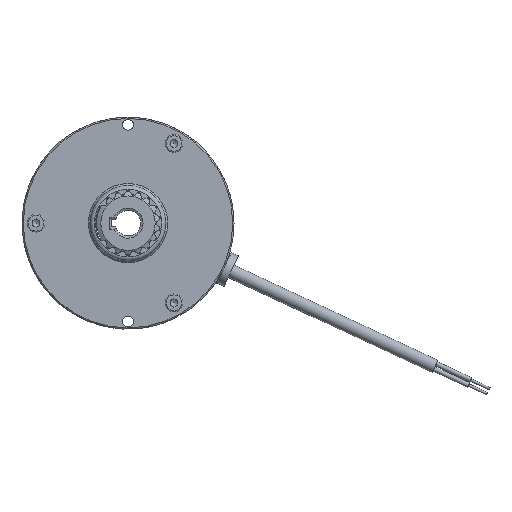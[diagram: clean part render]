
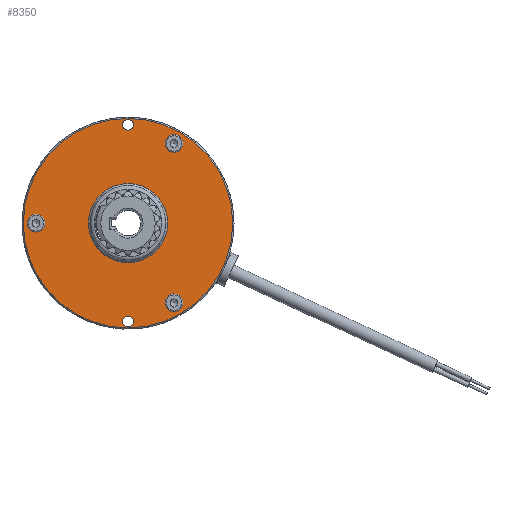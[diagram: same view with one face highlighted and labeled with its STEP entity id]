
A CAD part, left-side view. The second image highlights one B-rep face of the part: STEP entity #8350.
In plain terms, the highlighted planar face has unit normal (-1, 0, 0).
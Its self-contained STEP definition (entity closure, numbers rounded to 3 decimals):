
#149=FACE_BOUND('',#1711,.T.);
#150=FACE_BOUND('',#1712,.T.);
#151=FACE_BOUND('',#1713,.T.);
#152=FACE_BOUND('',#1714,.T.);
#153=FACE_BOUND('',#1715,.T.);
#154=FACE_BOUND('',#1716,.T.);
#226=PLANE('',#9124);
#703=CIRCLE('',#9115,3.5);
#704=CIRCLE('',#9116,3.5);
#705=CIRCLE('',#9125,41.);
#706=CIRCLE('',#9126,3.5);
#707=CIRCLE('',#9127,3.5);
#708=CIRCLE('',#9128,2.1);
#709=CIRCLE('',#9129,2.1);
#710=CIRCLE('',#9130,15.5);
#711=CIRCLE('',#9131,3.5);
#712=CIRCLE('',#9132,3.5);
#1300=FACE_OUTER_BOUND('',#1710,.T.);
#1710=EDGE_LOOP('',(#6850));
#1711=EDGE_LOOP('',(#6851,#6852));
#1712=EDGE_LOOP('',(#6853));
#1713=EDGE_LOOP('',(#6854));
#1714=EDGE_LOOP('',(#6855));
#1715=EDGE_LOOP('',(#6856,#6857));
#1716=EDGE_LOOP('',(#6858,#6859));
#3568=VERTEX_POINT('',#17226);
#3569=VERTEX_POINT('',#17227);
#3578=VERTEX_POINT('',#17275);
#3579=VERTEX_POINT('',#17277);
#3580=VERTEX_POINT('',#17278);
#3581=VERTEX_POINT('',#17281);
#3582=VERTEX_POINT('',#17283);
#3583=VERTEX_POINT('',#17285);
#3584=VERTEX_POINT('',#17287);
#3585=VERTEX_POINT('',#17288);
#4705=EDGE_CURVE('',#3568,#3569,#703,.T.);
#4706=EDGE_CURVE('',#3569,#3568,#704,.T.);
#4722=EDGE_CURVE('',#3578,#3578,#705,.T.);
#4723=EDGE_CURVE('',#3579,#3580,#706,.T.);
#4724=EDGE_CURVE('',#3580,#3579,#707,.T.);
#4725=EDGE_CURVE('',#3581,#3581,#708,.T.);
#4726=EDGE_CURVE('',#3582,#3582,#709,.T.);
#4727=EDGE_CURVE('',#3583,#3583,#710,.T.);
#4728=EDGE_CURVE('',#3584,#3585,#711,.T.);
#4729=EDGE_CURVE('',#3585,#3584,#712,.T.);
#6850=ORIENTED_EDGE('',*,*,#4722,.F.);
#6851=ORIENTED_EDGE('',*,*,#4723,.T.);
#6852=ORIENTED_EDGE('',*,*,#4724,.T.);
#6853=ORIENTED_EDGE('',*,*,#4725,.T.);
#6854=ORIENTED_EDGE('',*,*,#4726,.T.);
#6855=ORIENTED_EDGE('',*,*,#4727,.T.);
#6856=ORIENTED_EDGE('',*,*,#4728,.T.);
#6857=ORIENTED_EDGE('',*,*,#4729,.T.);
#6858=ORIENTED_EDGE('',*,*,#4705,.T.);
#6859=ORIENTED_EDGE('',*,*,#4706,.T.);
#8350=ADVANCED_FACE('',(#1300,#149,#150,#151,#152,#153,#154),#226,.T.);
#9115=AXIS2_PLACEMENT_3D('',#17228,#10917,#10918);
#9116=AXIS2_PLACEMENT_3D('',#17229,#10919,#10920);
#9124=AXIS2_PLACEMENT_3D('',#17274,#10943,#10944);
#9125=AXIS2_PLACEMENT_3D('',#17276,#10945,#10946);
#9126=AXIS2_PLACEMENT_3D('',#17279,#10947,#10948);
#9127=AXIS2_PLACEMENT_3D('',#17280,#10949,#10950);
#9128=AXIS2_PLACEMENT_3D('',#17282,#10951,#10952);
#9129=AXIS2_PLACEMENT_3D('',#17284,#10953,#10954);
#9130=AXIS2_PLACEMENT_3D('',#17286,#10955,#10956);
#9131=AXIS2_PLACEMENT_3D('',#17289,#10957,#10958);
#9132=AXIS2_PLACEMENT_3D('',#17290,#10959,#10960);
#10917=DIRECTION('center_axis',(1.,0.,0.));
#10918=DIRECTION('ref_axis',(0.,1.,0.));
#10919=DIRECTION('center_axis',(1.,0.,0.));
#10920=DIRECTION('ref_axis',(0.,1.,0.));
#10943=DIRECTION('center_axis',(-1.,0.,0.));
#10944=DIRECTION('ref_axis',(0.,0.,1.));
#10945=DIRECTION('center_axis',(1.,0.,0.));
#10946=DIRECTION('ref_axis',(0.,-1.,0.));
#10947=DIRECTION('center_axis',(1.,0.,0.));
#10948=DIRECTION('ref_axis',(0.,0.5,-0.866));
#10949=DIRECTION('center_axis',(1.,0.,0.));
#10950=DIRECTION('ref_axis',(0.,0.5,-0.866));
#10951=DIRECTION('center_axis',(1.,0.,0.));
#10952=DIRECTION('ref_axis',(0.,0.,
-1.));
#10953=DIRECTION('center_axis',(1.,0.,0.));
#10954=DIRECTION('ref_axis',(0.,0.,
-1.));
#10955=DIRECTION('center_axis',(1.,0.,0.));
#10956=DIRECTION('ref_axis',(0.,0.,1.));
#10957=DIRECTION('center_axis',(1.,0.,0.));
#10958=DIRECTION('ref_axis',(0.,-1.,0.));
#10959=DIRECTION('center_axis',(1.,0.,0.));
#10960=DIRECTION('ref_axis',(0.,-1.,0.));
#17226=CARTESIAN_POINT('',(-18.7,-14.5,31.177));
#17227=CARTESIAN_POINT('',(-18.7,-21.5,31.177));
#17228=CARTESIAN_POINT('Origin',(-18.7,-18.,31.177));
#17229=CARTESIAN_POINT('Origin',(-18.7,-18.,31.177));
#17274=CARTESIAN_POINT('Origin',(-18.7,20.75,0.));
#17275=CARTESIAN_POINT('',(-18.7,41.,0.));
#17276=CARTESIAN_POINT('Origin',(-18.7,0.,0.));
#17277=CARTESIAN_POINT('',(-18.7,-16.25,-34.208));
#17278=CARTESIAN_POINT('',(-18.7,-19.75,-28.146));
#17279=CARTESIAN_POINT('Origin',(-18.7,-18.,-31.177));
#17280=CARTESIAN_POINT('Origin',(-18.7,-18.,-31.177));
#17281=CARTESIAN_POINT('',(-18.7,0.,40.6));
#17282=CARTESIAN_POINT('Origin',(-18.7,0.,38.5));
#17283=CARTESIAN_POINT('',(-18.7,0.,-36.4));
#17284=CARTESIAN_POINT('Origin',(-18.7,0.,-38.5));
#17285=CARTESIAN_POINT('',(-18.7,0.,-15.5));
#17286=CARTESIAN_POINT('Origin',(-18.7,0.,0.));
#17287=CARTESIAN_POINT('',(-18.7,32.5,0.));
#17288=CARTESIAN_POINT('',(-18.7,39.5,0.));
#17289=CARTESIAN_POINT('Origin',(-18.7,36.,0.));
#17290=CARTESIAN_POINT('Origin',(-18.7,36.,0.));
